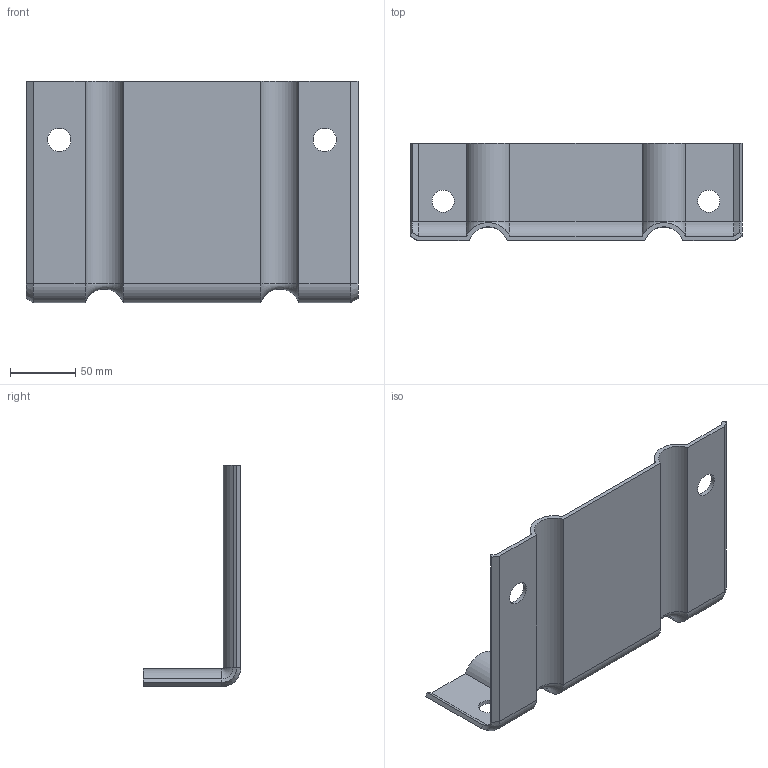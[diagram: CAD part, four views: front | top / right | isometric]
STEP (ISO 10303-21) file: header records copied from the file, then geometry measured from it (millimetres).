
FILE_DESCRIPTION(/* description */ (''),/* implementation_level */ '2;1');
FILE_NAME(/* name */ 'SC300.stp',/* time_stamp */ '2024-11-04T10:15:10+01:00',/* author */ ('woriedl'),/* organization */ (''),/* preprocessor_version */ 'ST-DEVELOPER v20',/* originating_system */ 'AutoCAD Mechanical',/* authorisation */ '');
FILE_SCHEMA (('AUTOMOTIVE_DESIGN { 1 0 10303 214 3 1 1 }'));
Length unit declared in the file: millimetre
Products named in the file (1): Product
Bounding box: 255 x 75 x 170 mm (x, y, z)
Volume: 200036.9 mm3; surface area: 128991.5 mm2
Topology: 1 solids, 1 shells, 54 faces, 124 edges, 72 vertices
Faces by surface type: plane 26, cylinder 18, cone 6, torus 4
Full cylindrical faces by diameter (mm): 17 x2, 18 x2
Entity records: 1531 total; most frequent: DIRECTION 274, CARTESIAN_POINT 251, ORIENTED_EDGE 248, EDGE_CURVE 124, AXIS2_PLACEMENT_3D 95, LINE 84, VECTOR 84, VERTEX_POINT 72
